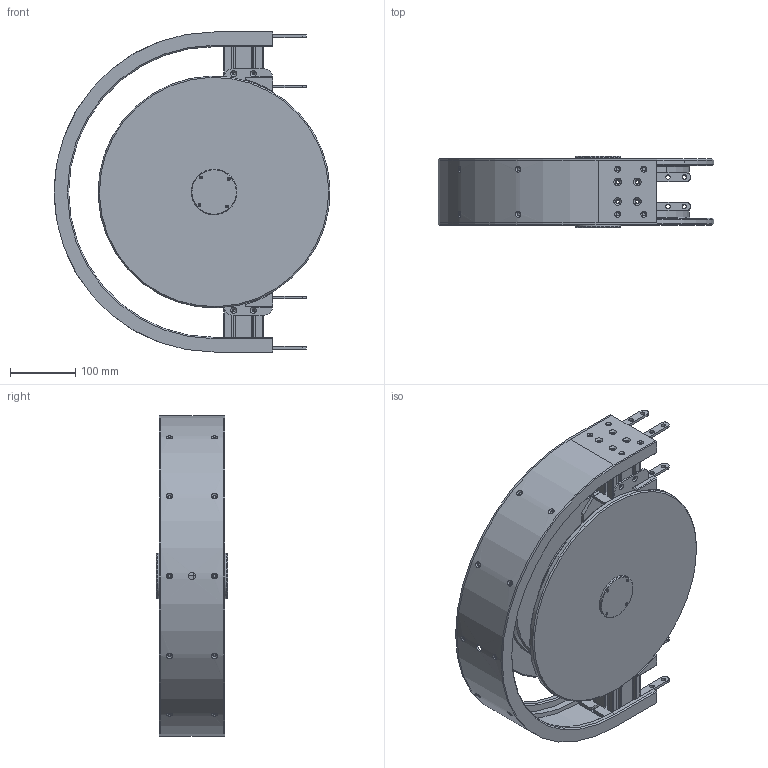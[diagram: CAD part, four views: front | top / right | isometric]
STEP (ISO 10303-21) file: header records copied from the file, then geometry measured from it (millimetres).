
FILE_DESCRIPTION (( 'STEP AP203' ), '1' );
FILE_NAME ('2000.325.518.STEP', '2013-01-24T15:44:11', ( 'Alusic' ), ( 'Alusic' ), 'SwSTEP 2.0', 'SolidWorks 2011', '' );
FILE_SCHEMA (( 'CONFIG_CONTROL_DESIGN' ));
Length unit declared in the file: millimetre
Products named in the file (14): 2000.325.503-1; 2000.325.514; 2000.325.414; 2000.325.510-1; 2000.325.501-2; 61805-2RS_16005; 2000.325.518; 2000.325.401; 2000.325.423; 2000.325.509-1; 2000.325.002_Default<A macchina>; 2000.325.502-3; 2000.325.513-1; 2000.325.402
Assembly tree (27 placements, depth 2):
  2000.325.518
    61805-2RS_16005  x4
    2000.325.513-1  x2
    2000.325.402  x2
    2000.325.423  x2
    2000.325.503-1  x2
    2000.325.401  x4
    2000.325.509-1  x2
    2000.325.501-2
    2000.325.510-1  x2
    2000.325.002_Default<A macchina>  x2
    2000.325.514  x2
    2000.325.414
    2000.325.502-3
Bounding box: 422.44 x 109 x 490 mm (x, y, z)
Volume: 5175061.7 mm3; surface area: 1163333.4 mm2
Topology: 27 solids, 27 shells, 1329 faces, 3521 edges, 2274 vertices
Faces by surface type: plane 563, cylinder 530, cone 150, torus 44, bspline 42
Entity records: 30742 total; most frequent: CARTESIAN_POINT 10929, DIRECTION 3803, ORIENTED_EDGE 3682, EDGE_CURVE 1841, AXIS2_PLACEMENT_3D 1389, VERTEX_POINT 1188, VECTOR 1025, LINE 1025
